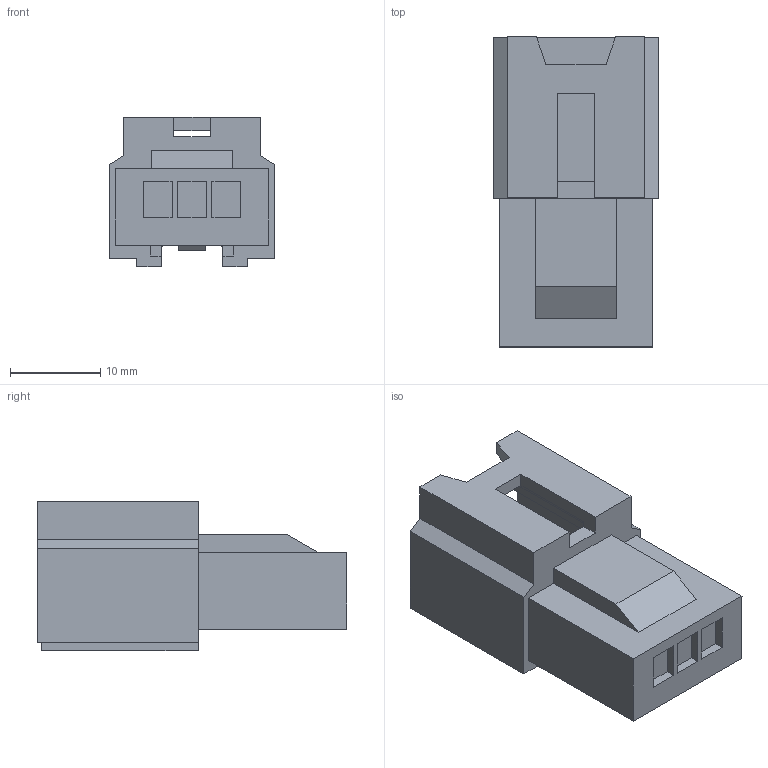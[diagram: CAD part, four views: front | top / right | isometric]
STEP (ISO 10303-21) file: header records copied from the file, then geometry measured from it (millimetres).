
FILE_DESCRIPTION(('CATIA V5 STEP','CAx-IF Rec.Pracs.--- Model Styling and Organization---1.4--- 2014-01-23'),'2;1');
FILE_NAME('\\fss02.ad.sws.co.jp\fs100016\第3設計部\共有\コネクタ第1Gr\【91】一時保管\★カタログ用参考資料\簡易３D\stp_送付用\6098-6964.stp','2024-10-07T06:41:10+00:00',('none'),('none'),'CATIA Version 5-6 Release 2018 SP4','CATIA V5 STEP AP214','none');
FILE_SCHEMA(('AUTOMOTIVE_DESIGN { 1 0 10303 214 1 1 1 1 }'));
Length unit declared in the file: millimetre
Products named in the file (1): 6098-6964
Bounding box: 18.3 x 34.25 x 16.55 mm (x, y, z)
Volume: 4594.7 mm3; surface area: 3786.3 mm2
Topology: 1 solids, 1 shells, 101 faces, 282 edges, 188 vertices
Faces by surface type: plane 99, revolution 2
Entity records: 3090 total; most frequent: CARTESIAN_POINT 576, ORIENTED_EDGE 564, DIRECTION 424, EDGE_CURVE 282, VECTOR 272, LINE 272, VERTEX_POINT 188, EDGE_LOOP 108
